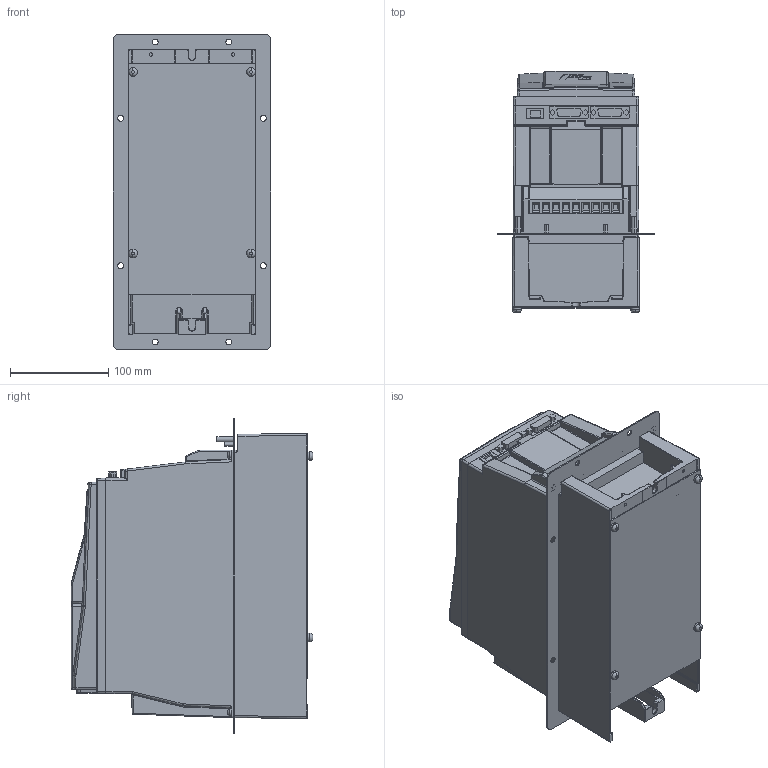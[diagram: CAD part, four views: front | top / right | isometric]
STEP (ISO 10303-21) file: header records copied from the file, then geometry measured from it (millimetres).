
FILE_DESCRIPTION (( 'STEP AP214' ), '1' );
FILE_NAME ('F6-2TR5-K000.STEP', '2020-11-26T13:25:19', ( '' ), ( '' ), 'SwSTEP 2.0', 'SolidWorks 2019', '' );
FILE_SCHEMA (( 'AUTOMOTIVE_DESIGN' ));
Length unit declared in the file: millimetre
Products named in the file (1): F6-2TR5-K000
Bounding box: 160 x 245.65 x 320 mm (x, y, z)
Volume: 7144648 mm3; surface area: 338139.2 mm2
Topology: 2 solids, 2 shells, 1359 faces, 3381 edges, 2039 vertices
Faces by surface type: plane 615, cylinder 390, bspline 219, torus 55, sphere 50, cone 30
Entity records: 47749 total; most frequent: CARTESIAN_POINT 17504, ORIENTED_EDGE 6634, DIRECTION 5709, EDGE_CURVE 3317, VERTEX_POINT 2039, AXIS2_PLACEMENT_3D 1929, VECTOR 1851, LINE 1851
